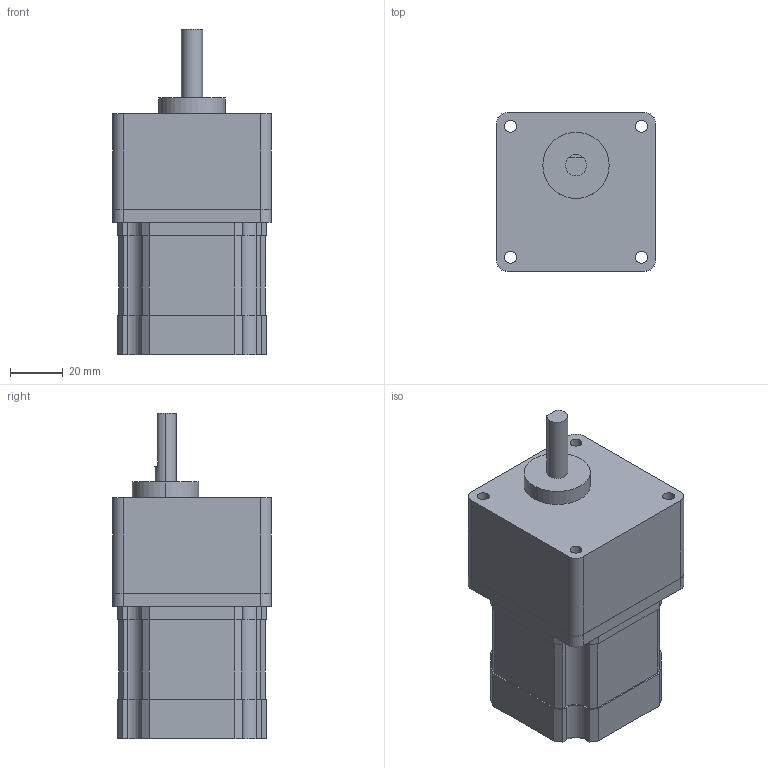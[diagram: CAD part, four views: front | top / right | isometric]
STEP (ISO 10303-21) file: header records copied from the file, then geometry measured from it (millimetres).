
FILE_DESCRIPTION (( 'STEP AP214' ), '1' );
FILE_NAME ('EXMK266-G2N-10K.STEP', '2020-07-09T02:04:14', ( '' ), ( '' ), 'SwSTEP 2.0', 'SolidWorks 2017', '' );
FILE_SCHEMA (( 'AUTOMOTIVE_DESIGN' ));
Length unit declared in the file: millimetre
Products named in the file (1): EXMK266-G2N-10K
Bounding box: 60 x 60 x 123 mm (x, y, z)
Volume: 287405.5 mm3; surface area: 30398.6 mm2
Topology: 1 solids, 1 shells, 110 faces, 306 edges, 204 vertices
Faces by surface type: plane 78, cylinder 32
Entity records: 3929 total; most frequent: CARTESIAN_POINT 621, ORIENTED_EDGE 612, DIRECTION 594, EDGE_CURVE 306, VECTOR 240, LINE 240, VERTEX_POINT 204, AXIS2_PLACEMENT_3D 177
